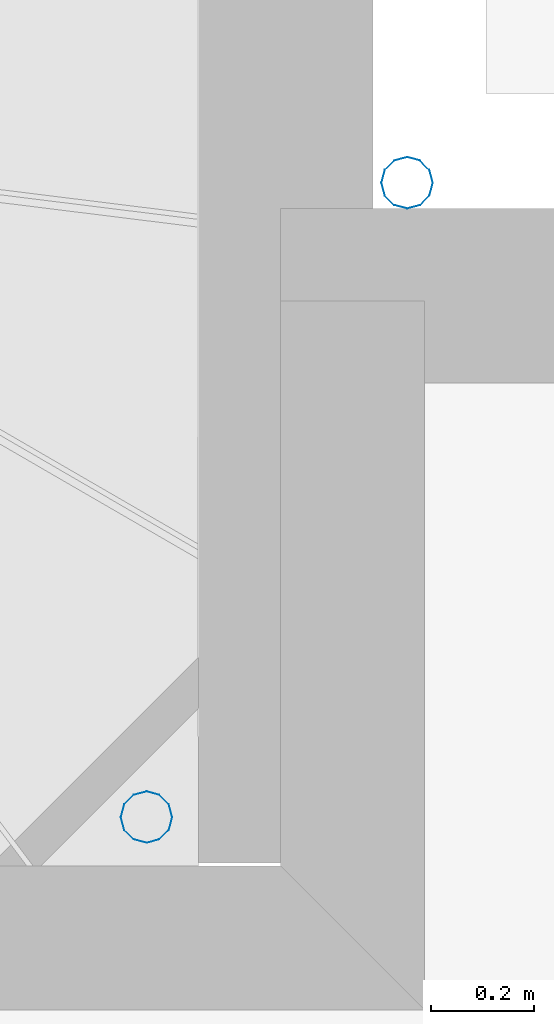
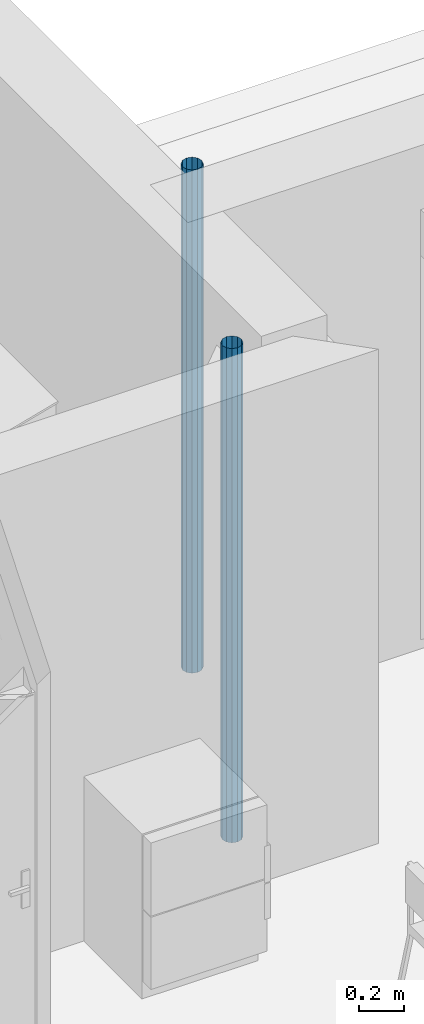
# One storey, part 78 of 164: 2 discrete accessories.
"""IFC2X3 building model written with IfcOpenShell, lengths in millimetres."""

from ifc_helpers import new_model, entity, si_unit, converted_unit, derived_unit, money_unit, direction, frame, origin_with_axes, place, context, subcontext, project, spatial, open_shell, surface_model, source, transform, mapped, type_object, element, save


model = new_model("IFC2X3")

# Units and contexts
model_context = context("Model", 3, precision=0.01, world=origin_with_axes(), true_north=direction((0.0, 1.0)))
body_context = subcontext(model_context, "Body", "Model", "MODEL_VIEW")
ifc_project = project(units=[si_unit("LENGTHUNIT", "METRE", prefix="MILLI"), si_unit("AREAUNIT", "SQUARE_METRE"), si_unit("VOLUMEUNIT", "CUBIC_METRE"), converted_unit("PLANEANGLEUNIT", "DEGREE", entity("IfcPlaneAngleMeasure", 0.0174532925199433), si_unit("PLANEANGLEUNIT", "RADIAN"), dimensions=[0, 0, 0, 0, 0, 0, 0]), money_unit("USD"), converted_unit("TIMEUNIT", "Year", entity("IfcTimeMeasure", 31557600.0), si_unit("TIMEUNIT", "SECOND"), dimensions=[0, 0, 1, 0, 0, 0, 0]), si_unit("MASSUNIT", "GRAM", prefix="KILO"), si_unit("THERMODYNAMICTEMPERATUREUNIT", "DEGREE_CELSIUS"), si_unit("LUMINOUSINTENSITYUNIT", "LUMEN"), si_unit("ENERGYUNIT", "JOULE", prefix="MEGA"), derived_unit("THERMALCONDUCTANCEUNIT", [(si_unit("POWERUNIT", "WATT"), 1), (si_unit("LENGTHUNIT", "METRE"), -1), (si_unit("THERMODYNAMICTEMPERATUREUNIT", "KELVIN"), -1)]), derived_unit("SPECIFICHEATCAPACITYUNIT", [(si_unit("ENERGYUNIT", "JOULE"), 1), (si_unit("MASSUNIT", "GRAM", prefix="KILO"), -1), (si_unit("THERMODYNAMICTEMPERATUREUNIT", "KELVIN"), -1)]), derived_unit("MASSDENSITYUNIT", [(si_unit("MASSUNIT", "GRAM", prefix="KILO"), 1), (si_unit("VOLUMEUNIT", "CUBIC_METRE"), -1)])], contexts=[model_context])

# Site, building, storey
site_placement = place(None, origin_with_axes())
site = spatial("IfcSite", under=ifc_project, at=site_placement, Name="Site", CompositionType="ELEMENT")
building_placement = place(site_placement, origin_with_axes())
building = spatial("IfcBuilding", under=site, at=building_placement, Name="Bâtiment", CompositionType="ELEMENT")
storey_placement = place(building_placement, frame((0.0, 0.0, 5750.0), z_axis=(0.0, 0.0, 1.0), x_axis=(1.0, 0.0, 0.0)))
storey = spatial("IfcBuildingStorey", under=building, at=storey_placement, Name="Etage1", CompositionType="ELEMENT", Elevation=5750.0)

# Discrete accessories
discrete_accessory_type = type_object("IfcDiscreteAccessoryType", Name="Tuyau descente 27")
shared_shape_1 = source(origin_with_axes(), body_context, "Body", "SurfaceModel", [
    surface_model("IfcShellBasedSurfaceModel", [(-50.0, 0.0, 2700.0), (-50.0, 0.0, 0.0), (-43.30127018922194, -25.0, 0.0), (-43.30127018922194, -25.0, 2700.0), (-43.30127018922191, 25.00000000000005, 2700.0), (-43.30127018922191, 25.00000000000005, 0.0), (-25.00000000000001, -43.30127018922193, 0.0), (-25.00000000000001, -43.30127018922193, 2700.0), (-24.99999999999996, 43.30127018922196, 2700.0), (-24.99999999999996, 43.30127018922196, 0.0), (0.0, -50.0, 0.0), (0.0, -50.0, 2700.0), (0.0, 50.0, 2700.0), (0.0, 50.0, 0.0), (24.99999999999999, -43.30127018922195, 0.0), (24.99999999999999, -43.30127018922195, 2700.0), (25.00000000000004, 43.30127018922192, 2700.0), (25.00000000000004, 43.30127018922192, 0.0), (43.30127018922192, -25.00000000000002, 0.0), (43.30127018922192, -25.00000000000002, 2700.0), (43.30127018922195, 24.99999999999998, 2700.0), (43.30127018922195, 24.99999999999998, 0.0), (50.0, 0.0, 0.0), (50.0, 0.0, 2700.0)], [open_shell([[[0, 1, 2, 3]], [[4, 5, 1, 0]], [[3, 2, 6, 7]], [[8, 9, 5, 4]], [[7, 6, 10, 11]], [[12, 13, 9, 8]], [[11, 10, 14, 15]], [[16, 17, 13, 12]], [[15, 14, 18, 19]], [[20, 21, 17, 16]], [[19, 18, 22, 23]], [[23, 22, 21, 20]]])]),
])
discrete_accessory_1_placement = place(storey_placement, frame((2229212.465333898, -637138.0577439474, 0.0), z_axis=(0.0, 0.0, 1.0), x_axis=(-0.9999999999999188, 4.028529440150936e-07, 0.0)))
element("IfcDiscreteAccessory", 1, at=discrete_accessory_1_placement, inside=storey, type_object=discrete_accessory_type, Name="Obj.-318", context=body_context, shape_type="MappedRepresentation", body=[
    mapped(shared_shape_1, transform((0.0, 0.0, 0.0))),
])
shared_shape_2 = source(origin_with_axes(), body_context, "Body", "SurfaceModel", [
    surface_model("IfcShellBasedSurfaceModel", [(50.0, 0.0, 2750.0), (43.30127018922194, -25.0, 2750.0), (43.30127018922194, -25.0, 0.0), (50.0, 0.0, 0.0), (25.00000000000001, -43.30127018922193, 2750.0), (25.00000000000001, -43.30127018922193, 0.0), (43.30127018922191, 25.00000000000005, 2750.0), (43.30127018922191, 25.00000000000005, 0.0), (0.0, -50.0, 2750.0), (0.0, -50.0, 0.0), (24.99999999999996, 43.30127018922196, 2750.0), (24.99999999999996, 43.30127018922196, 0.0), (-24.99999999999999, -43.30127018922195, 2750.0), (-24.99999999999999, -43.30127018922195, 0.0), (0.0, 50.0, 2750.0), (0.0, 50.0, 0.0), (-43.30127018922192, -25.00000000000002, 2750.0), (-43.30127018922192, -25.00000000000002, 0.0), (-25.00000000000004, 43.30127018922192, 2750.0), (-25.00000000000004, 43.30127018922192, 0.0), (-50.0, 0.0, 2750.0), (-50.0, 0.0, 0.0), (-43.30127018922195, 24.99999999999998, 2750.0), (-43.30127018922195, 24.99999999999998, 0.0)], [open_shell([[[0, 1, 2, 3]], [[1, 4, 5, 2]], [[6, 0, 3, 7]], [[4, 8, 9, 5]], [[10, 6, 7, 11]], [[8, 12, 13, 9]], [[14, 10, 11, 15]], [[12, 16, 17, 13]], [[18, 14, 15, 19]], [[16, 20, 21, 17]], [[22, 18, 19, 23]], [[20, 22, 23, 21]]])]),
])
discrete_accessory_2_placement = place(storey_placement, frame((2229719.732726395, -635903.3438947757, 0.0), z_axis=(0.0, 0.0, 1.0), x_axis=(1.0, 0.0, 0.0)))
element("IfcDiscreteAccessory", 2, at=discrete_accessory_2_placement, inside=storey, type_object=discrete_accessory_type, Name="Obj.-318", context=body_context, shape_type="MappedRepresentation", body=[
    mapped(shared_shape_2, transform((0.0, 0.0, 0.0))),
])

save(model, "model.ifc")
